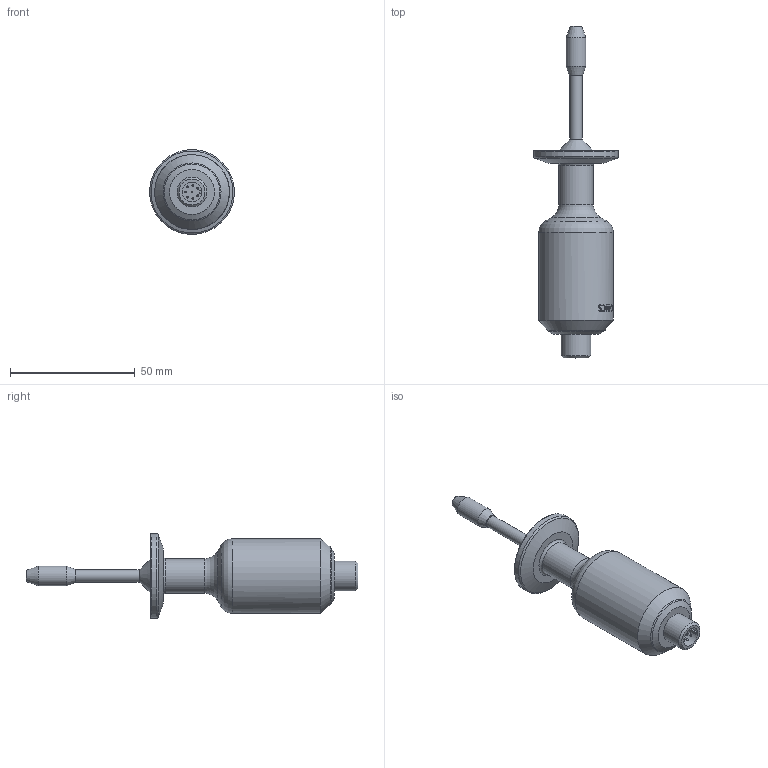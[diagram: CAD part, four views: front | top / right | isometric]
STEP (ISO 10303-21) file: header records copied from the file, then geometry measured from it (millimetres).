
FILE_DESCRIPTION(/* description */ ('Unknown'),/* implementation_level */ '2;1');
FILE_NAME(/* name */ 'SRV-X4-05T',/* time_stamp */ '2024-04-01T15:54:51-05:00',/* author */ ('Unknown'),/* organization */ ('Unknown'),/* preprocessor_version */ 'ST-DEVELOPER v16.7',/* originating_system */ 'Solid Edge',/* authorisation */ 'Unknown');
FILE_SCHEMA (('AUTOMOTIVE_DESIGN {1 0 10303 214 3 1 1}'));
Length unit declared in the file: millimetre
Products named in the file (1): SRV-X4-05T
Bounding box: 33.88 x 133.13 x 33.88 mm (x, y, z)
Volume: 40633.4 mm3; surface area: 9743 mm2
Topology: 1 solids, 1 shells, 175 faces, 442 edges, 290 vertices
Faces by surface type: bspline 73, plane 37, cylinder 35, cone 12, torus 10, sphere 8
Full cylindrical faces by diameter (mm): 0.8 x8, 5.019 x1, 8 x2, 12 x1, 13.9 x1, 30 x1, 34 x1
Entity records: 8077 total; most frequent: CARTESIAN_POINT 4666, ORIENTED_EDGE 746, DIRECTION 483, EDGE_CURVE 373, VERTEX_POINT 266, EDGE_LOOP 241, FACE_BOUND 241, AXIS2_PLACEMENT_3D 179
